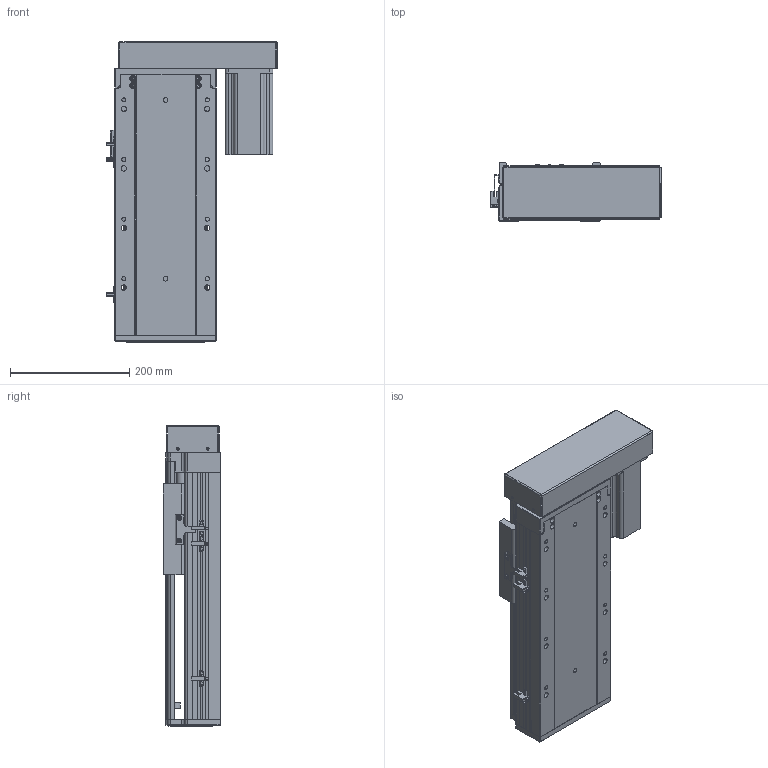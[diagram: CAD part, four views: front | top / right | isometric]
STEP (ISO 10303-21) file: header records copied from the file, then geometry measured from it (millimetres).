
FILE_DESCRIPTION (( 'STEP AP203' ), '1' );
FILE_NAME ('RY170-L2510-300-RK.SLDASM_200.step', '2021-03-12T09:18:52', ( '盈信电脑' ), ( '东莞市道滘镇水果街19号' ), 'SwSTEP 2.0', 'SolidWorks 2012', '' );
FILE_SCHEMA (( 'CONFIG_CONTROL_DESIGN' ));
Length unit declared in the file: millimetre
Products named in the file (14): RY170外置感应片(200共用）; 覜茼ん672; RY170-L2510-300-RK.SLDASM_200; RY170-酘衵殏750W萇儂傷; RY170-左右折电机安装板750W; RY170酘衵殏萇儂欶750W; RY170转折电机端支撑座(7004); 怢湛750W萇儂ㄗ80遺ㄘ; RY170綴裔啣; 滅袉蝶18-10; 滅袉蝶18-20; RY170-300倰第裔啣-RK_200; 改造-RY170铝滑块25丝杆螺母; RY170-300倰第菁釱-RK_200
Assembly tree (15 placements, depth 3):
  RY170-L2510-300-RK.SLDASM_200
    RY170-300倰第菁釱-RK_200
    改造-RY170铝滑块25丝杆螺母
    RY170-300倰第裔啣-RK_200
    RY170綴裔啣
    滅袉蝶18-20
    滅袉蝶18-10
    RY170转折电机端支撑座(7004)
    RY170-酘衵殏750W萇儂傷
      RY170-左右折电机安装板750W
      RY170酘衵殏萇儂欶750W
      怢湛750W萇儂ㄗ80遺ㄘ
    覜茼ん672  x3
    RY170外置感应片(200共用）
Bounding box: 286.2 x 97 x 505 mm (x, y, z)
Volume: 3877202.9 mm3; surface area: 1071545.2 mm2
Topology: 14 solids, 14 shells, 1995 faces, 5654 edges, 3656 vertices
Faces by surface type: plane 1080, cylinder 766, cone 130, bspline 19
Entity records: 63259 total; most frequent: CARTESIAN_POINT 14506, ORIENTED_EDGE 10140, DIRECTION 9476, EDGE_CURVE 5070, VERTEX_POINT 3336, LINE 3268, VECTOR 3268, AXIS2_PLACEMENT_3D 3104
